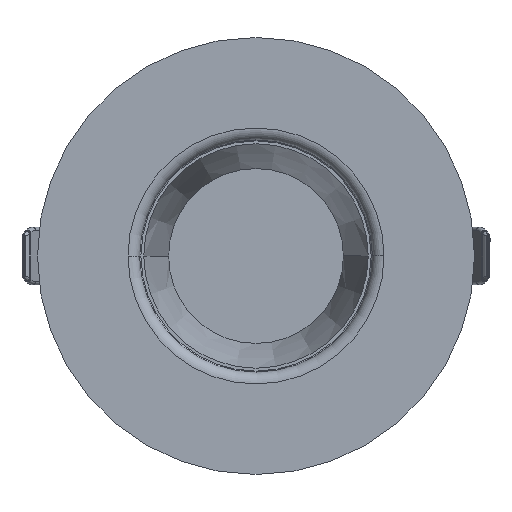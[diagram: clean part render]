
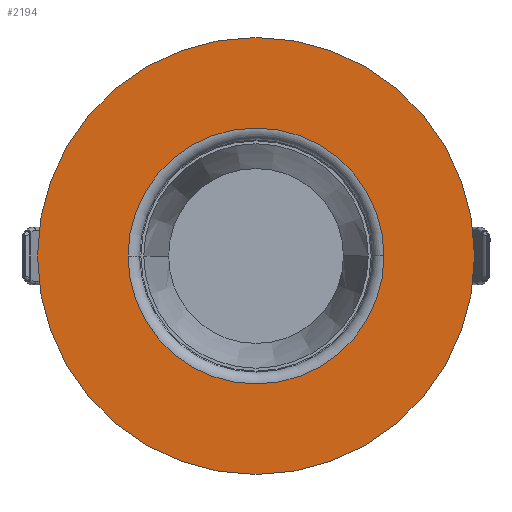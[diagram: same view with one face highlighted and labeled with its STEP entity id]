
A CAD part, front view. The second image highlights one B-rep face of the part: STEP entity #2194.
In plain terms, the highlighted planar face has unit normal (0, -1, 0).
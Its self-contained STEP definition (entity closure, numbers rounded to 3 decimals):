
#108=CARTESIAN_POINT('',(0.,-93.41,0.));
#109=DIRECTION('',(0.,1.,0.));
#110=DIRECTION('',(-1.,0.,-0.01));
#111=AXIS2_PLACEMENT_3D('',#108,#109,#110);
#128=CARTESIAN_POINT('',(0.,-93.41,0.));
#129=DIRECTION('',(0.,1.,0.));
#130=DIRECTION('',(1.,0.,0.));
#131=AXIS2_PLACEMENT_3D('',#128,#129,#130);
#133=CARTESIAN_POINT('',(0.,-93.41,0.));
#134=DIRECTION('',(0.,1.,0.));
#135=DIRECTION('',(-1.,0.,0.));
#136=AXIS2_PLACEMENT_3D('',#133,#134,#135);
#138=CARTESIAN_POINT('',(0.,-93.41,0.));
#139=DIRECTION('',(0.,-1.,0.));
#140=DIRECTION('',(-1.,0.,-0.01));
#141=AXIS2_PLACEMENT_3D('',#138,#139,#140);
#143=CARTESIAN_POINT('',(0.,-93.41,0.));
#144=DIRECTION('',(0.,-1.,0.));
#145=DIRECTION('',(1.,0.,0.01));
#146=AXIS2_PLACEMENT_3D('',#143,#144,#145);
#1123=CARTESIAN_POINT('',(0.,-93.41,0.));
#1124=DIRECTION('',(0.,1.,0.));
#1125=DIRECTION('',(1.,0.,0.01));
#1126=AXIS2_PLACEMENT_3D('',#1123,#1124,#1125);
#1759=CARTESIAN_POINT('',(-30.749,-93.41,-0.293));
#1760=CARTESIAN_POINT('',(30.75,-93.41,0.));
#1761=VERTEX_POINT('',#1759);
#1762=VERTEX_POINT('',#1760);
#1763=CARTESIAN_POINT('',(-30.75,-93.41,0.));
#1764=VERTEX_POINT('',#1763);
#1765=CARTESIAN_POINT('',(52.5,-93.41,0.));
#1766=CARTESIAN_POINT('',(-52.5,-93.41,0.));
#1767=VERTEX_POINT('',#1765);
#1768=VERTEX_POINT('',#1766);
#1769=CARTESIAN_POINT('',(30.749,-93.41,0.293));
#1770=VERTEX_POINT('',#1769);
#2175=CARTESIAN_POINT('',(0.,-93.41,0.));
#2176=DIRECTION('',(0.,-1.,0.));
#2177=DIRECTION('',(-1.,0.,0.));
#2178=AXIS2_PLACEMENT_3D('',#2175,#2176,#2177);
#2179=PLANE('',#2178);
#2181=ORIENTED_EDGE('',*,*,#2180,.T.);
#2183=ORIENTED_EDGE('',*,*,#2182,.T.);
#2184=EDGE_LOOP('',(#2181,#2183));
#2185=FACE_OUTER_BOUND('',#2184,.F.);
#2186=ORIENTED_EDGE('',*,*,#2164,.F.);
#2187=ORIENTED_EDGE('',*,*,#2162,.T.);
#2189=ORIENTED_EDGE('',*,*,#2188,.F.);
#2191=ORIENTED_EDGE('',*,*,#2190,.T.);
#2192=EDGE_LOOP('',(#2186,#2187,#2189,#2191));
#2193=FACE_BOUND('',#2192,.F.);
#112=CIRCLE('',#111,30.75);
#132=CIRCLE('',#131,52.5);
#137=CIRCLE('',#136,52.5);
#142=CIRCLE('',#141,30.75);
#147=CIRCLE('',#146,30.75);
#1127=CIRCLE('',#1126,30.75);
#2162=EDGE_CURVE('',#1761,#1762,#142,.T.);
#2164=EDGE_CURVE('',#1761,#1764,#112,.T.);
#2180=EDGE_CURVE('',#1767,#1768,#132,.T.);
#2182=EDGE_CURVE('',#1768,#1767,#137,.T.);
#2188=EDGE_CURVE('',#1770,#1762,#1127,.T.);
#2190=EDGE_CURVE('',#1770,#1764,#147,.T.);
#2194=ADVANCED_FACE('',(#2185,#2193),#2179,.T.);
